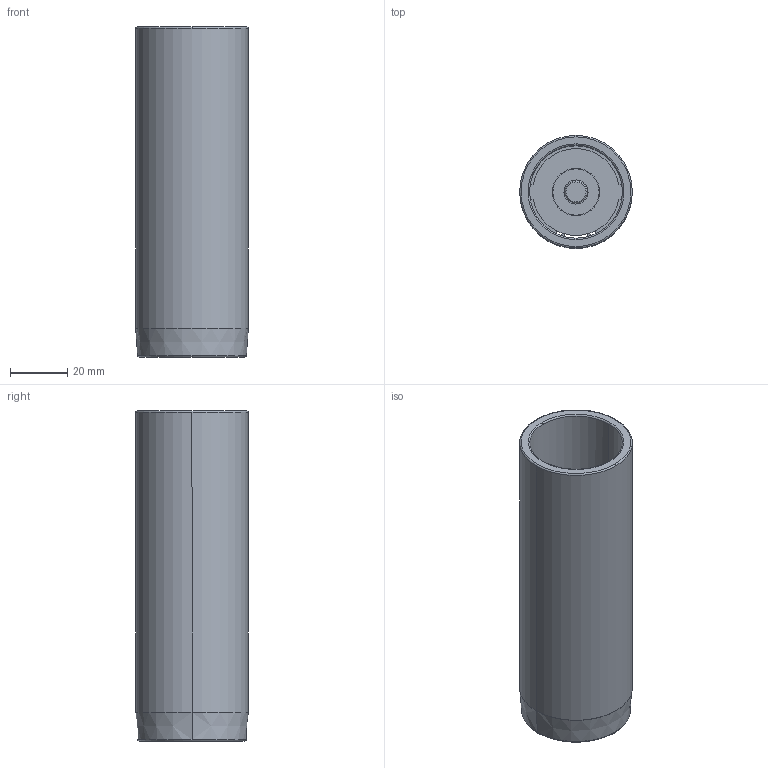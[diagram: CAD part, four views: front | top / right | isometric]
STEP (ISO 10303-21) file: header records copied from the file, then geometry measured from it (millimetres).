
FILE_DESCRIPTION((''),'2;1');
FILE_NAME('C12_032_115.stp','2009-01-28T09:50:10',(''),(''),'Mechanical Desktop 2009','Mechanical Desktop 2009',', , ');
FILE_SCHEMA(('CONFIG_CONTROL_DESIGN'));
Length unit declared in the file: millimetre
Products named in the file (2): Product; blmdl1
Assembly tree (1 placements, depth 2):
  Product
    blmdl1
Bounding box: 39.25 x 39.25 x 115 mm (x, y, z)
Volume: 47329.5 mm3; surface area: 31247.4 mm2
Topology: 5 solids, 5 shells, 79 faces, 200 edges, 134 vertices
Faces by surface type: cylinder 34, plane 29, torus 10, cone 6
Entity records: 2585 total; most frequent: DIRECTION 480, CARTESIAN_POINT 435, ORIENTED_EDGE 400, AXIS2_PLACEMENT_3D 203, EDGE_CURVE 200, VERTEX_POINT 134, CIRCLE 122, EDGE_LOOP 92
